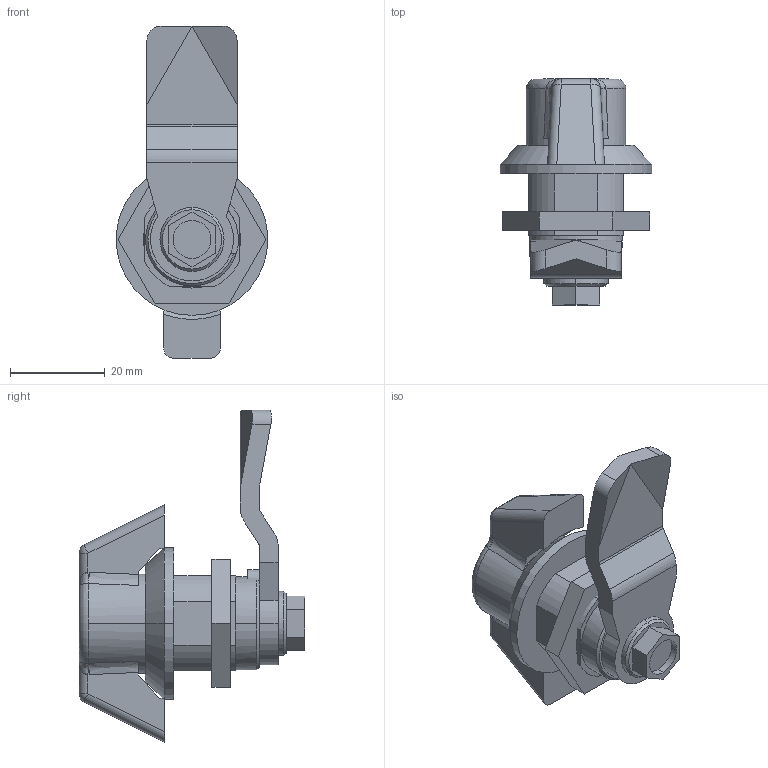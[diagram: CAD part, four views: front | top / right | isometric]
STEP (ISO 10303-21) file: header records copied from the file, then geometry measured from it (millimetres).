
FILE_DESCRIPTION (( 'STEP AP214' ), '1' );
FILE_NAME ('115-SKN-14-A4.step', '2023-07-12T12:42:03', ( '' ), ( '' ), 'SwSTEP 2.0', 'SolidWorks 2022', '' );
FILE_SCHEMA (( 'AUTOMOTIVE_DESIGN' ));
Length unit declared in the file: millimetre
Products named in the file (5): WB115_Betätigungswelle_Hebel^WB115_BE_SKN; WB115_Gegenmutter^WB115_BE; WB115_Gehäuse^WB115_BE_32; 115-SKN-14-A4; WB115_Zunge^WB115_BE_14
Assembly tree (4 placements, depth 2):
  115-SKN-14-A4
    WB115_Gehäuse^WB115_BE_32
    WB115_Betätigungswelle_Hebel^WB115_BE_SKN
    WB115_Zunge^WB115_BE_14
    WB115_Gegenmutter^WB115_BE
Bounding box: 32 x 47.65 x 70 mm (x, y, z)
Volume: 23598.8 mm3; surface area: 12447 mm2
Topology: 4 solids, 4 shells, 159 faces, 393 edges, 248 vertices
Faces by surface type: plane 76, cylinder 57, bspline 12, cone 7, sphere 5, torus 2
Entity records: 5778 total; most frequent: CARTESIAN_POINT 1353, DIRECTION 779, ORIENTED_EDGE 776, EDGE_CURVE 388, AXIS2_PLACEMENT_3D 286, VERTEX_POINT 248, LINE 207, VECTOR 207
